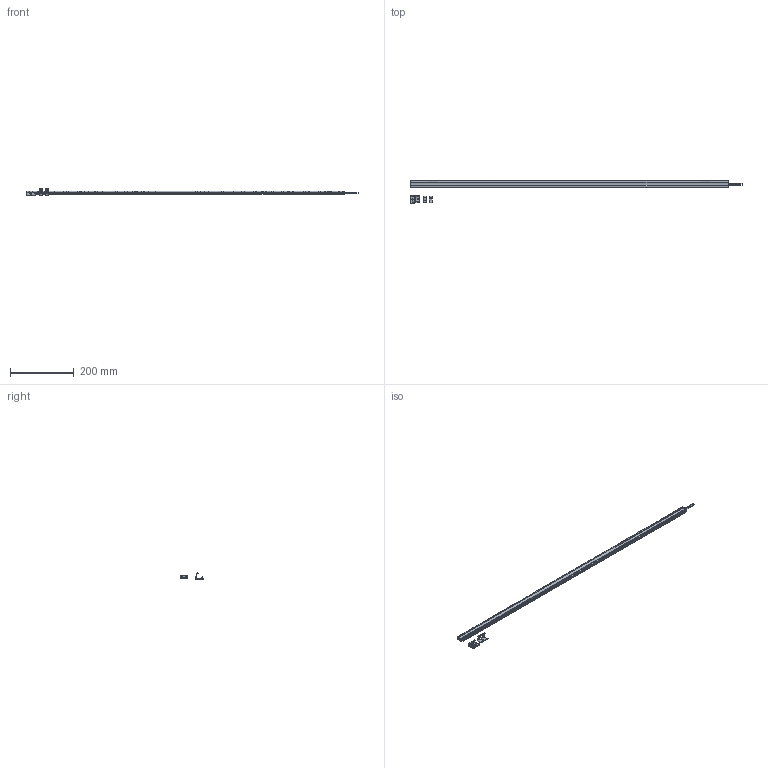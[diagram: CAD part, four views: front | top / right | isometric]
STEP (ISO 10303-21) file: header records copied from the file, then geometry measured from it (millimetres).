
FILE_DESCRIPTION(/* description */ (''),/* implementation_level */ '2;1');
FILE_NAME(/* name */ 'C:/Users/schwa/OneDrive - LED-MARTIN GmbH/eCommerce/Produktdetails/3D_Daten/LED-MARTIN/SOLIS/Solis100_m_Clips.step',/* time_stamp */ '2021-05-17T13:17:31+02:00',/* author */ (''),/* organization */ (''),/* preprocessor_version */ 'ST-DEVELOPER v18.1',/* originating_system */ 'Autodesk Translation Framework v10.6.0.1341',/* authorisation */ '');
FILE_SCHEMA (('AUTOMOTIVE_DESIGN { 1 0 10303 214 3 1 1 }'));
Length unit declared in the file: millimetre
Products named in the file (5): Solis100_m_Clips; Clip2; Clip1; 45°_Clip1; Solis1000
Assembly tree (5 placements, depth 2):
  Solis100_m_Clips
    Clip2
    Clip1
    45°_Clip1  x2
    Solis1000
Bounding box: 1045 x 69.94 x 19.79 mm (x, y, z)
Volume: 150012.2 mm3; surface area: 197783.7 mm2
Topology: 75 solids, 75 shells, 784 faces, 1878 edges, 1244 vertices
Faces by surface type: plane 563, cylinder 138, cone 40, bspline 35, torus 4, sphere 4
Full cylindrical faces by diameter (mm): 1.126 x44, 1.5 x2, 1.6 x48, 2 x6, 5 x4
Entity records: 35243 total; most frequent: CARTESIAN_POINT 17954, ORIENTED_EDGE 3664, DIRECTION 3110, EDGE_CURVE 1832, LINE 1326, VECTOR 1326, VERTEX_POINT 1216, AXIS2_PLACEMENT_3D 892
